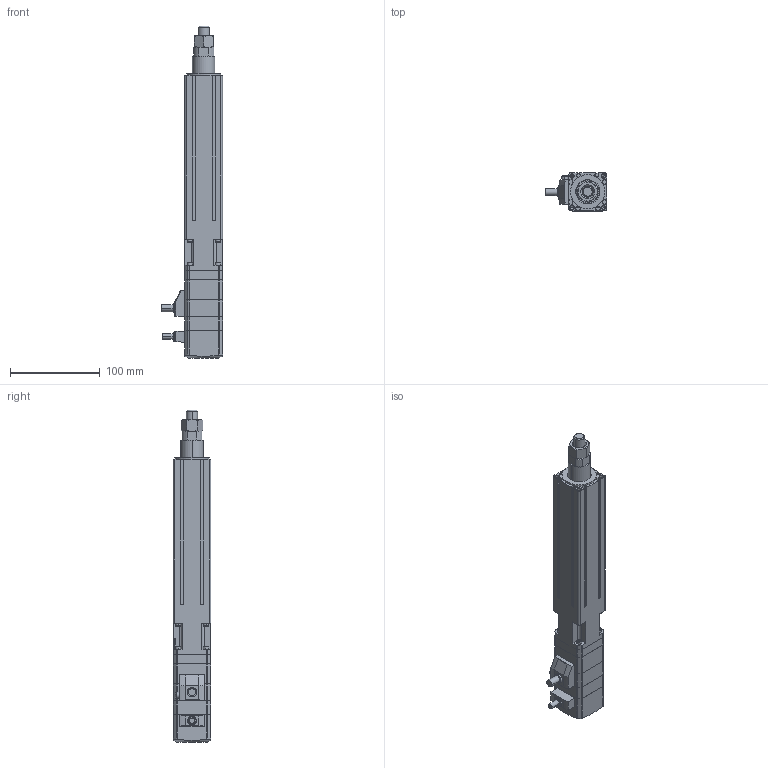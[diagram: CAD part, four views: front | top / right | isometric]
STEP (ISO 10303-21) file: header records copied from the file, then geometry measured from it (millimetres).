
FILE_DESCRIPTION (( 'STEP AP203' ), '1' );
FILE_NAME ('EACM4D10ARMK.step', '2013-11-01T03:21:14', ( 'om' ), ( 'Hewlett-Packard Company' ), 'SwSTEP 2.0', 'SolidWorks 2011', '' );
FILE_SCHEMA (( 'CONFIG_CONTROL_DESIGN' ));
Length unit declared in the file: millimetre
Products named in the file (5): EACM4D10ARMK; EACM4D10ARMK_Nut; EACM4D10ARMK_BASE; EACM4D10ARMK_Motor; EACM4D10ARMK_Rod
Assembly tree (4 placements, depth 2):
  EACM4D10ARMK
    EACM4D10ARMK_BASE
    EACM4D10ARMK_Motor
    EACM4D10ARMK_Rod
    EACM4D10ARMK_Nut
Bounding box: 68 x 42 x 368.9 mm (x, y, z)
Volume: 529911.7 mm3; surface area: 112372.4 mm2
Topology: 4 solids, 4 shells, 629 faces, 1616 edges, 1047 vertices
Faces by surface type: plane 306, cylinder 243, cone 54, torus 18, bspline 6, sphere 2
Entity records: 19889 total; most frequent: CARTESIAN_POINT 3745, DIRECTION 3368, ORIENTED_EDGE 3200, EDGE_CURVE 1600, AXIS2_PLACEMENT_3D 1198, VERTEX_POINT 1047, VECTOR 972, LINE 972
